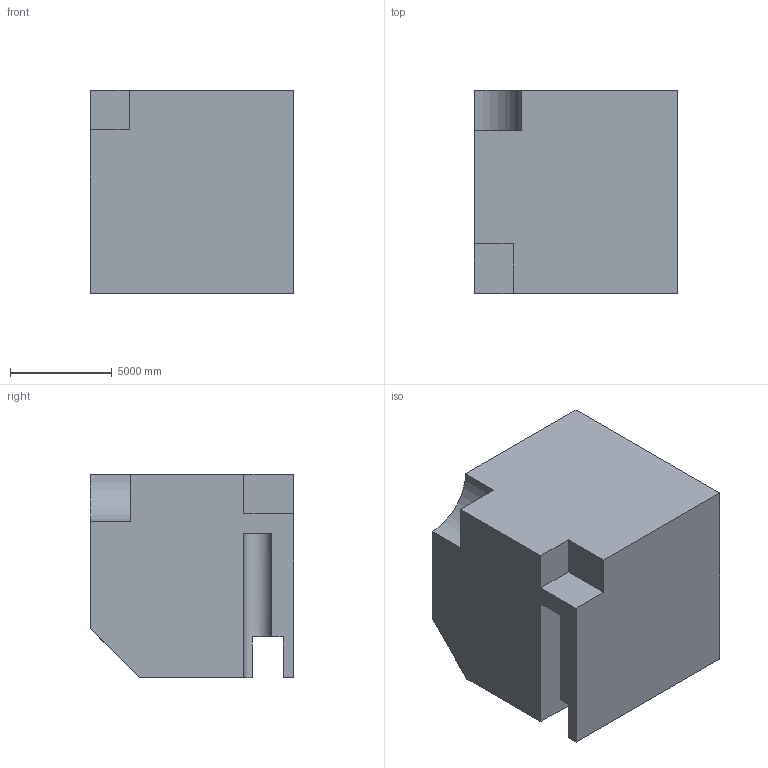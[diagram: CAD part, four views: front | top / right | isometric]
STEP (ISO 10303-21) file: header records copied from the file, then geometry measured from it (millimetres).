
FILE_DESCRIPTION (( 'STEP AP203' ), '1' );
FILE_NAME ('1629.STEP', '2022-08-19T11:10:37', ( 'user' ), ( '' ), 'SwSTEP 2.0', 'SolidWorks 2021', '' );
FILE_SCHEMA (( 'CONFIG_CONTROL_DESIGN' ));
Length unit declared in the file: centimetre
Products named in the file (1): 1629
Bounding box: 10000 x 10000 x 10000 mm (x, y, z)
Volume: 880938234165.8 mm3; surface area: 682415796.1 mm2
Topology: 1 solids, 1 shells, 29 faces, 78 edges, 52 vertices
Faces by surface type: plane 27, cylinder 2
Entity records: 974 total; most frequent: CARTESIAN_POINT 160, ORIENTED_EDGE 156, DIRECTION 143, EDGE_CURVE 78, VECTOR 73, LINE 73, VERTEX_POINT 52, AXIS2_PLACEMENT_3D 35
